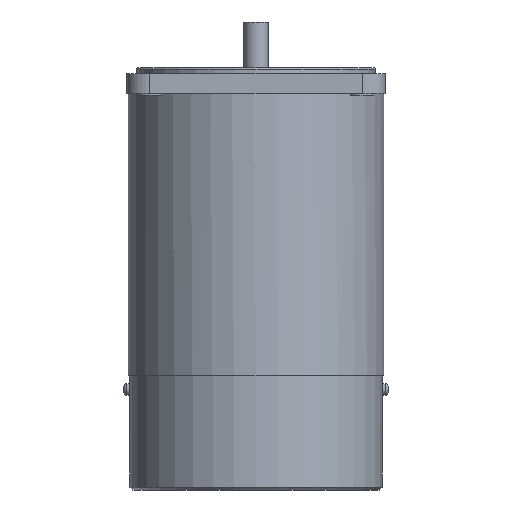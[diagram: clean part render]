
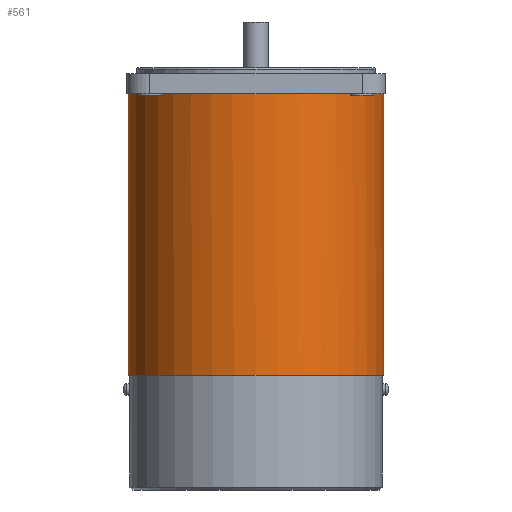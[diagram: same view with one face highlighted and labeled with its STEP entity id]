
A CAD part, front view. The second image highlights one B-rep face of the part: STEP entity #561.
In plain terms, the highlighted cylindrical face has radius 44.5 mm (diameter 89 mm), a full revolution.
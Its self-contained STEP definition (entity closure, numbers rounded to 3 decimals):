
#470=CARTESIAN_POINT('',(-13.118,42.523,98.0));
#471=VERTEX_POINT('',#470);
#478=CARTESIAN_POINT('',(-20.792,39.344,98.0));
#479=VERTEX_POINT('',#478);
#480=CARTESIAN_POINT('',(-20.792,39.344,98.0));
#481=CARTESIAN_POINT('',(-20.931,39.271,97.871));
#482=CARTESIAN_POINT('',(-21.062,39.201,97.735));
#483=CARTESIAN_POINT('',(-21.694,38.858,97.02));
#484=CARTESIAN_POINT('',(-22.132,38.608,96.29));
#485=CARTESIAN_POINT('',(-22.71,38.27,94.689));
#486=CARTESIAN_POINT('',(-22.852,38.184,93.817));
#487=CARTESIAN_POINT('',(-22.852,38.184,92.183));
#488=CARTESIAN_POINT('',(-22.71,38.27,91.311));
#489=CARTESIAN_POINT('',(-22.132,38.608,89.71));
#490=CARTESIAN_POINT('',(-21.694,38.858,88.98));
#491=CARTESIAN_POINT('',(-20.675,39.41,87.827));
#492=CARTESIAN_POINT('',(-20.025,39.748,87.327));
#493=CARTESIAN_POINT('',(-18.58,40.444,86.664));
#494=CARTESIAN_POINT('',(-17.785,40.8,86.5));
#495=CARTESIAN_POINT('',(-16.274,41.425,86.5));
#496=CARTESIAN_POINT('',(-15.46,41.736,86.664));
#497=CARTESIAN_POINT('',(-13.946,42.266,87.327));
#498=CARTESIAN_POINT('',(-13.247,42.486,87.827));
#499=CARTESIAN_POINT('',(-12.137,42.817,88.98));
#500=CARTESIAN_POINT('',(-11.65,42.949,89.71));
#501=CARTESIAN_POINT('',(-11.002,43.12,91.311));
#502=CARTESIAN_POINT('',(-10.842,43.159,92.183));
#503=CARTESIAN_POINT('',(-10.842,43.159,93.));
#504=CARTESIAN_POINT('',(-10.842,43.159,93.817));
#505=CARTESIAN_POINT('',(-11.002,43.12,94.689));
#506=CARTESIAN_POINT('',(-11.65,42.949,96.29));
#507=CARTESIAN_POINT('',(-12.137,42.817,97.02));
#508=CARTESIAN_POINT('',(-12.826,42.612,97.735));
#509=CARTESIAN_POINT('',(-12.968,42.569,97.871));
#510=CARTESIAN_POINT('',(-13.118,42.523,98.0));
#511=B_SPLINE_CURVE_WITH_KNOTS('',3,(#480,#481,#482,#483,#484,#485,#486,#487,#488,#489,#490,#491,#492,#493,#494,#495,#496,#497,#498,#499,#500,#501,#502,#503,#504,#505,#506,#507,#508,#509,#510),.UNSPECIFIED.,.F.,.U.,(4,2,2,2,2,2,2,2,2,2,2,3,2,2,4),(-2.511,-2.452,-2.207,-1.962,-1.717,-1.471,-1.226,-0.981,-0.736,-0.49,-0.245,0.0,0.245,0.49,0.55),.UNSPECIFIED.);
#512=EDGE_CURVE('',#479,#471,#511,.T.);
#535=CARTESIAN_POINT('',(0.0,0.0,0.0));
#536=DIRECTION('',(0.0,0.0,1.0));
#537=DIRECTION('',(-1.0,0.0,0.0));
#538=AXIS2_PLACEMENT_3D('',#535,#536,#537);
#539=CYLINDRICAL_SURFACE('',#538,44.5);
#540=ORIENTED_EDGE('',*,*,#512,.T.);
#541=CARTESIAN_POINT('',(0.0,0.0,98.0));
#542=DIRECTION('',(0.0,0.0,1.0));
#543=DIRECTION('',(0.618,-0.786,0.0));
#544=AXIS2_PLACEMENT_3D('',#541,#542,#543);
#545=CIRCLE('',#544,44.5);
#546=EDGE_CURVE('',#479,#471,#545,.T.);
#547=ORIENTED_EDGE('',*,*,#546,.F.);
#548=EDGE_LOOP('',(#540,#547));
#549=FACE_OUTER_BOUND('',#548,.T.);
#550=CARTESIAN_POINT('',(-44.5,0.,0.0));
#551=VERTEX_POINT('',#550);
#552=CARTESIAN_POINT('',(0.0,0.0,0.0));
#553=DIRECTION('',(0.0,0.0,1.0));
#554=DIRECTION('',(-1.0,0.0,0.0));
#555=AXIS2_PLACEMENT_3D('',#552,#553,#554);
#556=CIRCLE('',#555,44.5);
#557=EDGE_CURVE('',#551,#551,#556,.T.);
#558=ORIENTED_EDGE('',*,*,#557,.T.);
#559=EDGE_LOOP('',(#558));
#560=FACE_BOUND('',#559,.T.);
#561=ADVANCED_FACE('',(#549,#560),#539,.T.);
